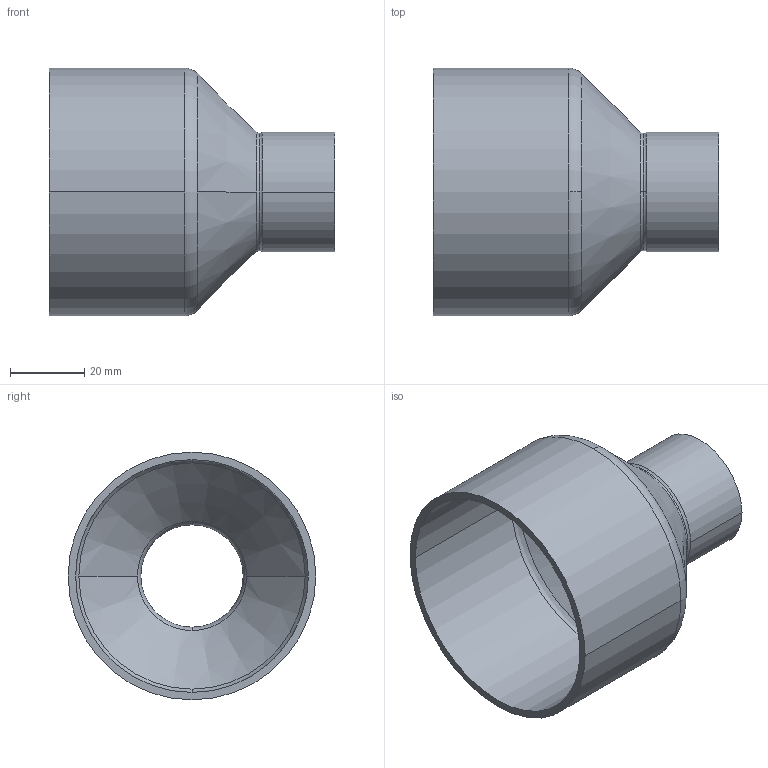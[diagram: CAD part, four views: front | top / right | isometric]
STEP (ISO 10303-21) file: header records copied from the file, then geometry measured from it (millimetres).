
FILE_DESCRIPTION((''),'2;1');
FILE_NAME('G:\Technics\CAD\Bauteile\Serie 15243\152436728.stp','2005-10-21T12:49:48',('boden'),(''),'Autodesk Inventor 8','Autodesk Inventor 8','');
FILE_SCHEMA(('AUTOMOTIVE_DESIGN { 1 0 10303 214 1 1 1 1 }'));
Length unit declared in the file: millimetre
Products named in the file (1): 152436728
Bounding box: 77 x 66.7 x 66.7 mm (x, y, z)
Volume: 26815 mm3; surface area: 27411.9 mm2
Topology: 1 solids, 1 shells, 26 faces, 68 edges, 44 vertices
Faces by surface type: cylinder 8, torus 6, bspline 6, cone 4, plane 2
Entity records: 1103 total; most frequent: CARTESIAN_POINT 403, DIRECTION 166, ORIENTED_EDGE 136, AXIS2_PLACEMENT_3D 77, EDGE_CURVE 68, CIRCLE 56, VERTEX_POINT 44, EDGE_LOOP 28
